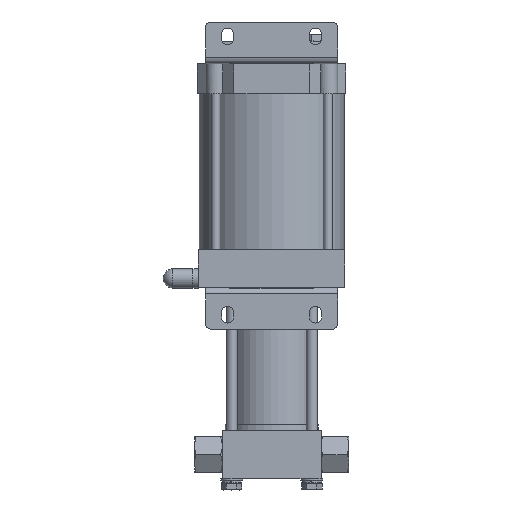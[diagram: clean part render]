
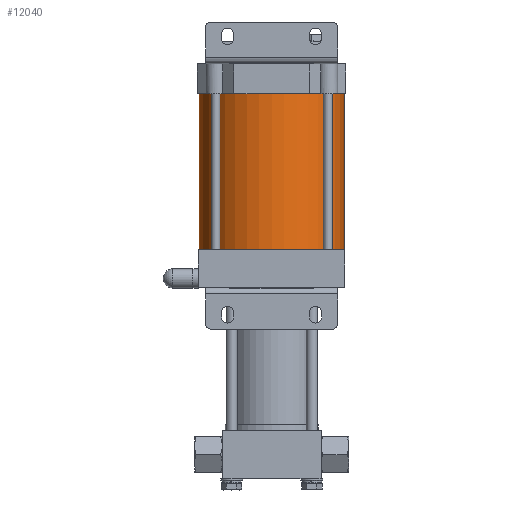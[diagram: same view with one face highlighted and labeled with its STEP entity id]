
A CAD part, front view. The second image highlights one B-rep face of the part: STEP entity #12040.
In plain terms, the highlighted cylindrical face has radius 66 mm (diameter 132 mm), a full revolution.
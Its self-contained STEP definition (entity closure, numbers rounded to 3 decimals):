
#1099=FACE_OUTER_BOUND('',#1799,.T.);
#1799=EDGE_LOOP('',(#7839,#7840,#7841,#7842));
#2660=CIRCLE('',#12826,66.);
#2661=CIRCLE('',#12827,66.);
#3126=LINE('',#17287,#4004);
#4004=VECTOR('',#14136,66.);
#4926=VERTEX_POINT('',#17284);
#4927=VERTEX_POINT('',#17286);
#6062=EDGE_CURVE('',#4926,#4926,#2660,.T.);
#6063=EDGE_CURVE('',#4926,#4927,#3126,.T.);
#6064=EDGE_CURVE('',#4927,#4927,#2661,.T.);
#7839=ORIENTED_EDGE('',*,*,#6062,.F.);
#7840=ORIENTED_EDGE('',*,*,#6063,.T.);
#7841=ORIENTED_EDGE('',*,*,#6064,.F.);
#7842=ORIENTED_EDGE('',*,*,#6063,.F.);
#11211=CYLINDRICAL_SURFACE('',#12825,66.);
#12040=ADVANCED_FACE('',(#1099),#11211,.T.);
#12825=AXIS2_PLACEMENT_3D('',#17283,#14132,#14133);
#12826=AXIS2_PLACEMENT_3D('',#17285,#14134,#14135);
#12827=AXIS2_PLACEMENT_3D('',#17288,#14137,#14138);
#14132=DIRECTION('center_axis',(0.,0.,
-1.));
#14133=DIRECTION('ref_axis',(-1.,0.,0.));
#14134=DIRECTION('center_axis',(0.,0.,
-1.));
#14135=DIRECTION('ref_axis',(-1.,0.,0.));
#14136=DIRECTION('',(0.,0.,1.));
#14137=DIRECTION('center_axis',(0.,0.,1.));
#14138=DIRECTION('ref_axis',(-1.,0.,0.));
#17283=CARTESIAN_POINT('Origin',(0.,0.,
-70.));
#17284=CARTESIAN_POINT('',(66.,0.,-141.));
#17285=CARTESIAN_POINT('Origin',(0.,0.,
-141.));
#17286=CARTESIAN_POINT('',(66.,0.,1.));
#17287=CARTESIAN_POINT('',(66.,0.,-70.));
#17288=CARTESIAN_POINT('Origin',(0.,0.,
1.));
